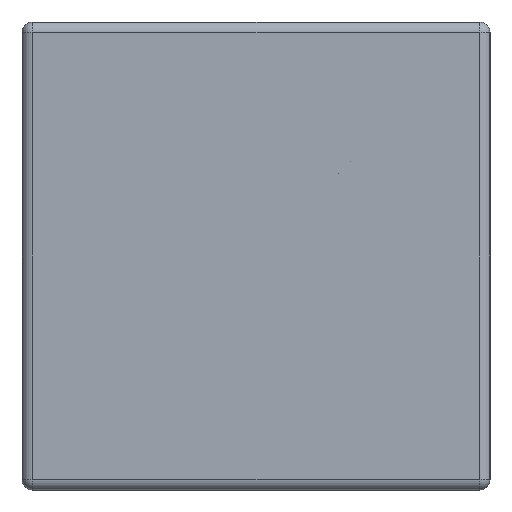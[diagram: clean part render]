
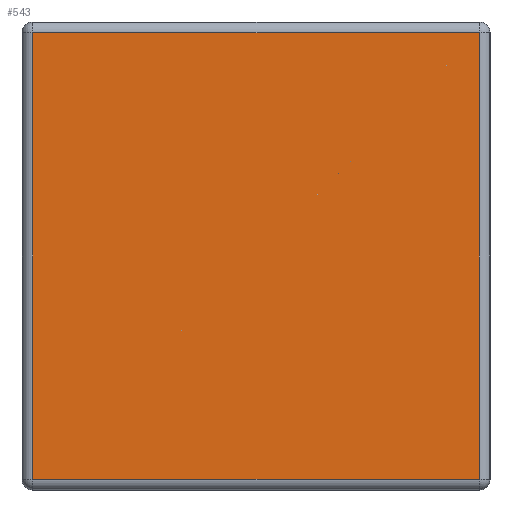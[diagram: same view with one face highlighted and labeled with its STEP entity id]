
A CAD part, left-side view. The second image highlights one B-rep face of the part: STEP entity #543.
In plain terms, the highlighted planar face has unit normal (-1, 0, 0).
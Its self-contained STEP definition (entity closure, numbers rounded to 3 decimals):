
#125 = VECTOR ( 'NONE', #245, 1000. ) ;
#152 = ORIENTED_EDGE ( 'NONE', *, *, #170, .T. ) ;
#170 = EDGE_CURVE ( 'NONE', #2670, #2404, #2260, .T. ) ;
#245 = DIRECTION ( 'NONE',  ( 0., 0., -1. ) ) ;
#481 = VECTOR ( 'NONE', #2250, 1000. ) ;
#501 = CARTESIAN_POINT ( 'NONE',  ( -32., 10.615, 10.615 ) ) ;
#543 = ADVANCED_FACE ( 'NONE', ( #677 ), #3688, .F. ) ;
#565 = LINE ( 'NONE', #2637, #481 ) ;
#575 = CARTESIAN_POINT ( 'NONE',  ( -32., -11.115, 10.615 ) ) ;
#607 = EDGE_CURVE ( 'NONE', #3493, #2670, #1985, .T. ) ;
#610 = ORIENTED_EDGE ( 'NONE', *, *, #607, .T. ) ;
#677 = FACE_OUTER_BOUND ( 'NONE', #2863, .T. ) ;
#782 = CARTESIAN_POINT ( 'NONE',  ( -32., -10.615, 10.615 ) ) ;
#918 = ORIENTED_EDGE ( 'NONE', *, *, #2609, .T. ) ;
#926 = DIRECTION ( 'NONE',  ( 0., 1., 0. ) ) ;
#1307 = ORIENTED_EDGE ( 'NONE', *, *, #2514, .T. ) ;
#1500 = VECTOR ( 'NONE', #926, 1000. ) ;
#1797 = CARTESIAN_POINT ( 'NONE',  ( -32., 10.615, -10.615 ) ) ;
#1985 = LINE ( 'NONE', #2418, #3097 ) ;
#2025 = DIRECTION ( 'NONE',  ( 1., 0., 0. ) ) ;
#2075 = DIRECTION ( 'NONE',  ( 0., 0., 1. ) ) ;
#2250 = DIRECTION ( 'NONE',  ( 0., -1., 0. ) ) ;
#2260 = LINE ( 'NONE', #575, #1500 ) ;
#2404 = VERTEX_POINT ( 'NONE', #501 ) ;
#2418 = CARTESIAN_POINT ( 'NONE',  ( -32., -10.615, 11.115 ) ) ;
#2514 = EDGE_CURVE ( 'NONE', #2795, #3493, #565, .T. ) ;
#2609 = EDGE_CURVE ( 'NONE', #2404, #2795, #3282, .T. ) ;
#2637 = CARTESIAN_POINT ( 'NONE',  ( -32., -11.115, -10.615 ) ) ;
#2670 = VERTEX_POINT ( 'NONE', #782 ) ;
#2795 = VERTEX_POINT ( 'NONE', #1797 ) ;
#2863 = EDGE_LOOP ( 'NONE', ( #1307, #610, #152, #918 ) ) ;
#3097 = VECTOR ( 'NONE', #2075, 1000. ) ;
#3172 = AXIS2_PLACEMENT_3D ( 'NONE', #3730, #2025, #3399 ) ;
#3282 = LINE ( 'NONE', #4312, #125 ) ;
#3399 = DIRECTION ( 'NONE',  ( 0., 0., -1. ) ) ;
#3493 = VERTEX_POINT ( 'NONE', #3630 ) ;
#3630 = CARTESIAN_POINT ( 'NONE',  ( -32., -10.615, -10.615 ) ) ;
#3688 = PLANE ( 'NONE',  #3172 ) ;
#3730 = CARTESIAN_POINT ( 'NONE',  ( -32., -11.115, 11.115 ) ) ;
#4312 = CARTESIAN_POINT ( 'NONE',  ( -32., 10.615, 11.115 ) ) ;
